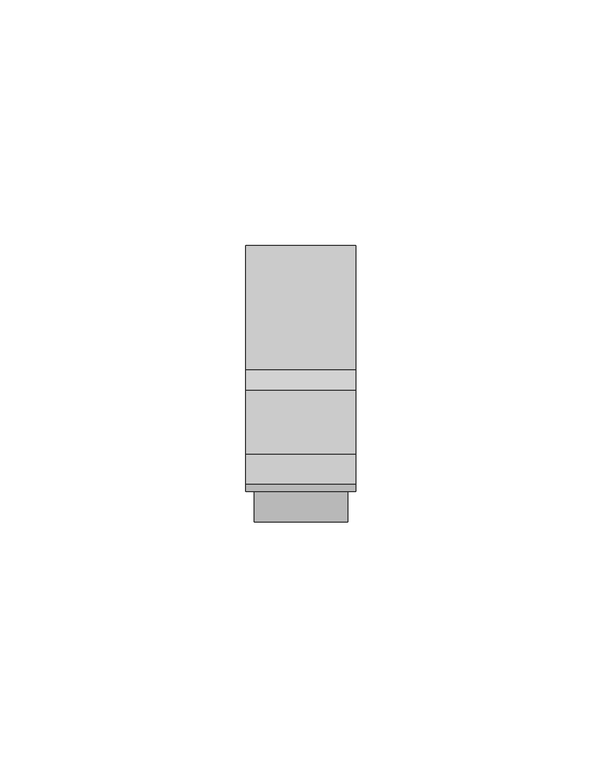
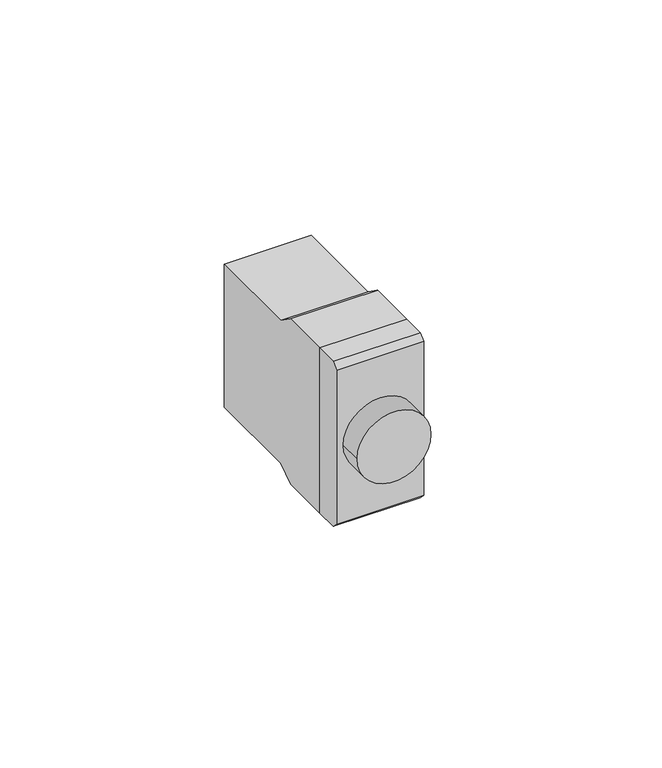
"""IFC4 building model written with IfcOpenShell, lengths in millimetres: proxy geometry."""

from ifc_helpers import new_model, si_unit, point, frame, frame_2d, origin, place, context, project, spatial, polyline, circle_curve, trimmed, segment, composite_curve, outline, extrude, source, transform, mapped, element, save


def electrical_fixtures_fa952ffe(model_context):
    return source(origin(), model_context, "Body", "SweptSolid", [
        extrude(outline(composite_curve([segment(trimmed(circle_curve(frame_2d((0.0, 11.2)), 9.5), [point((0.0, 1.7))], [point((0.0, 20.7))], False, "CARTESIAN"), True, "CONTINUOUS"), segment(trimmed(circle_curve(frame_2d((0.0, 11.2)), 9.5), [point((0.0, 20.7))], [point((0.0, 1.7))], False, "CARTESIAN"), True, "CONTINUOUS")], self_intersect=False)), frame((0.0, -48.4, 0.0), z_axis=(0.0, 1.0, 0.0), x_axis=(0.0, 0.0, 1.0)), (0.0, 0.0, 1.0), 6.2),
        extrude(outline(polyline([(-40.7, -22.45), (-42.2, -20.95), (-42.2, 20.95), (-40.7, 22.45), (-34.7, 22.45), (-34.7, -22.45), (-40.7, -22.45)])), frame((0.0, 0.0, 0.0), z_axis=(1.0, 0.0, 0.0), x_axis=(0.0, 1.0, 0.0)), (0.0, 0.0, 1.0), 22.4),
        extrude(outline(polyline([(-21.6745085, 22.45), (-17.3900644, 19.45), (7.8, 19.45), (7.8, -19.45), (-17.3900644, -19.45), (-21.6745085, -22.45), (-34.7, -22.45), (-34.7, 22.45), (-21.6745085, 22.45)])), frame((0.0, 0.0, 0.0), z_axis=(1.0, 0.0, 0.0), x_axis=(0.0, 1.0, 0.0)), (0.0, 0.0, 1.0), 22.4),
    ])


if __name__ == "__main__":
    model = new_model("IFC4")
    model_context = context("Model", 3, world=origin())
    ifc_project = project(units=[si_unit("LENGTHUNIT", "METRE", prefix="MILLI")], contexts=[model_context])
    site = spatial("IfcSite", under=ifc_project)
    building = spatial("IfcBuilding", under=site)
    placement = place(None, origin())
    electrical_fixtures_shape = electrical_fixtures_fa952ffe(model_context)
    element("IfcBuildingElementProxy", 1, Name="Electrical Fixtures", at=placement, inside=building, context=model_context, shape_type="MappedRepresentation", body=[
        mapped(electrical_fixtures_shape, transform((0.0, 0.0, 0.0), x_axis=(1.0, 0.0, 0.0), y_axis=(0.0, 1.0, 0.0), z_axis=(0.0, 0.0, 1.0))),
    ])
    save(model, "model.ifc")
